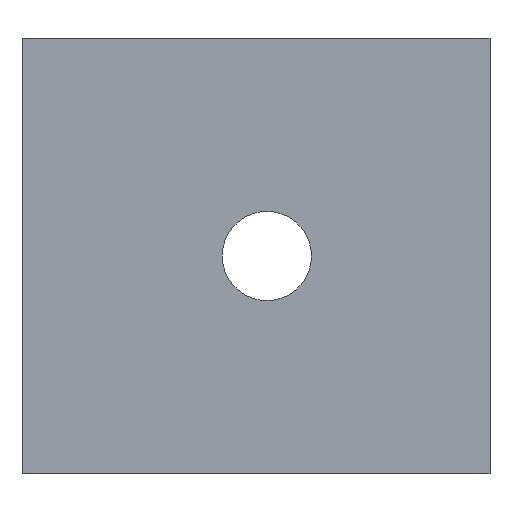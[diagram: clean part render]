
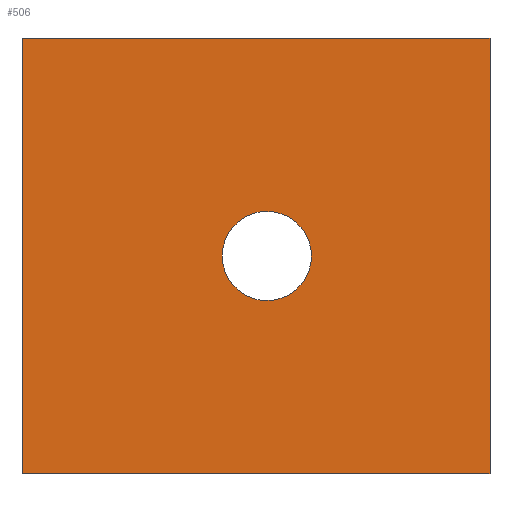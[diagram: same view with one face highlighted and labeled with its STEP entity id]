
A CAD part, front view. The second image highlights one B-rep face of the part: STEP entity #506.
In plain terms, the highlighted planar face has unit normal (0, -1, 0).
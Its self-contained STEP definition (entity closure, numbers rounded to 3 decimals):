
#119=CARTESIAN_POINT('',(18.4,0.,-20.0));
#120=VERTEX_POINT('',#119);
#121=CARTESIAN_POINT('',(22.5,0.,-20.0));
#122=DIRECTION('',(0.0,1.0,0.0));
#123=DIRECTION('',(1.0,0.0,0.0));
#124=AXIS2_PLACEMENT_3D('',#121,#122,#123);
#125=CIRCLE('',#124,4.1);
#126=EDGE_CURVE('',#120,#120,#125,.T.);
#464=CARTESIAN_POINT('',(0.0,0.0,0.0));
#465=DIRECTION('',(0.0,-1.0,0.0));
#466=DIRECTION('',(0.0,0.0,-1.0));
#467=AXIS2_PLACEMENT_3D('',#464,#465,#466);
#468=PLANE('',#467);
#469=CARTESIAN_POINT('',(0.0,0.0,-40.0));
#470=VERTEX_POINT('',#469);
#471=CARTESIAN_POINT('',(43.0,0.0,-40.0));
#472=VERTEX_POINT('',#471);
#473=CARTESIAN_POINT('',(0.0,0.0,-40.0));
#474=DIRECTION('',(1.0,0.0,0.0));
#475=VECTOR('',#474,43.0);
#476=LINE('',#473,#475);
#477=EDGE_CURVE('',#470,#472,#476,.T.);
#478=ORIENTED_EDGE('',*,*,#477,.T.);
#479=CARTESIAN_POINT('',(43.0,0.0,0.0));
#480=VERTEX_POINT('',#479);
#481=CARTESIAN_POINT('',(43.0,0.0,0.0));
#482=DIRECTION('',(0.0,0.0,-1.0));
#483=VECTOR('',#482,40.0);
#484=LINE('',#481,#483);
#485=EDGE_CURVE('',#480,#472,#484,.T.);
#486=ORIENTED_EDGE('',*,*,#485,.F.);
#487=CARTESIAN_POINT('',(0.0,0.0,0.0));
#488=VERTEX_POINT('',#487);
#489=CARTESIAN_POINT('',(43.0,0.0,0.0));
#490=DIRECTION('',(-1.0,0.0,0.0));
#491=VECTOR('',#490,43.0);
#492=LINE('',#489,#491);
#493=EDGE_CURVE('',#480,#488,#492,.T.);
#494=ORIENTED_EDGE('',*,*,#493,.T.);
#495=CARTESIAN_POINT('',(0.0,0.0,0.0));
#496=DIRECTION('',(0.0,0.0,-1.0));
#497=VECTOR('',#496,40.0);
#498=LINE('',#495,#497);
#499=EDGE_CURVE('',#488,#470,#498,.T.);
#500=ORIENTED_EDGE('',*,*,#499,.T.);
#501=EDGE_LOOP('',(#478,#486,#494,#500));
#502=FACE_OUTER_BOUND('',#501,.T.);
#503=ORIENTED_EDGE('',*,*,#126,.T.);
#504=EDGE_LOOP('',(#503));
#505=FACE_BOUND('',#504,.T.);
#506=ADVANCED_FACE('',(#502,#505),#468,.T.);
